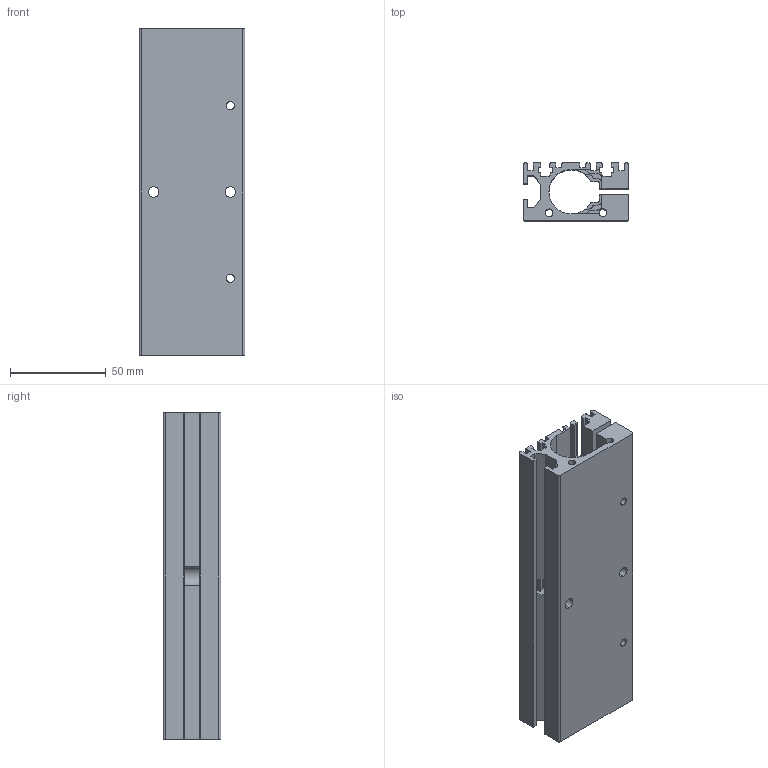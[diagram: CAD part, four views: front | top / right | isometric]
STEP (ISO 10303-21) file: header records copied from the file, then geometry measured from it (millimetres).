
FILE_DESCRIPTION (( 'STEP AP214' ), '1' );
FILE_NAME ('PF02-23x170.STEP', '2008-06-25T10:28:13', ( 'Ausderau' ), ( 'NTI AG' ), 'SwSTEP 2.0', 'SolidWorks 2005037', '' );
FILE_SCHEMA (( 'AUTOMOTIVE_DESIGN' ));
Length unit declared in the file: millimetre
Products named in the file (1): PF02-23x170
Bounding box: 55 x 30 x 170 mm (x, y, z)
Volume: 141032.2 mm3; surface area: 69201.3 mm2
Topology: 1 solids, 1 shells, 225 faces, 675 edges, 447 vertices
Faces by surface type: plane 127, cylinder 98
Entity records: 7872 total; most frequent: CARTESIAN_POINT 1584, ORIENTED_EDGE 1350, DIRECTION 1291, EDGE_CURVE 675, VERTEX_POINT 447, AXIS2_PLACEMENT_3D 434, VECTOR 423, LINE 423
